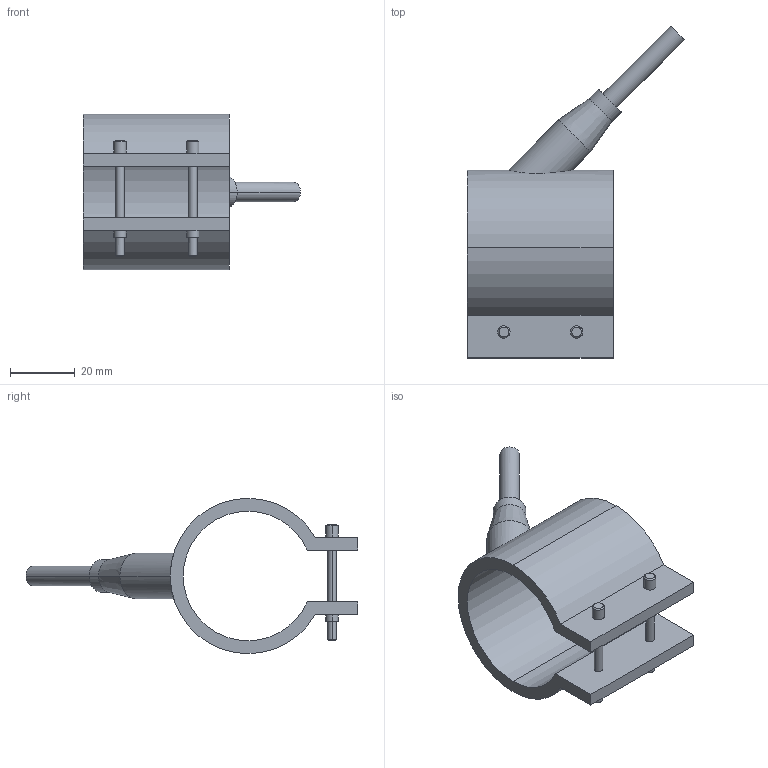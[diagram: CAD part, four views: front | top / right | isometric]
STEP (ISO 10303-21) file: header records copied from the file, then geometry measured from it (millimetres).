
FILE_DESCRIPTION(('CATIA V5 STEP Exchange'),'2;1');
FILE_NAME('C:\Users\Utente\Desktop\IO LAVORO\3D X SITO CF\X SITO\PLASTICA\RF1\29040045.stp','2021-03-27T09:09:34+00:00',('none'),('none'),'CATIA Version 5 Release 20 GA (IN-10)','CATIA V5 STEP AP203','none');
FILE_SCHEMA(('CONFIG_CONTROL_DESIGN'));
Length unit declared in the file: millimetre
Products named in the file (1): 29040045
Bounding box: 67.05 x 102.55 x 48 mm (x, y, z)
Volume: 31525.1 mm3; surface area: 16848 mm2
Topology: 1 solids, 1 shells, 54 faces, 124 edges, 80 vertices
Faces by surface type: cylinder 28, plane 16, cone 10
Entity records: 1724 total; most frequent: CARTESIAN_POINT 487, ORIENTED_EDGE 248, DIRECTION 213, EDGE_CURVE 124, AXIS2_PLACEMENT_3D 106, VERTEX_POINT 80, EDGE_LOOP 66, VECTOR 56
